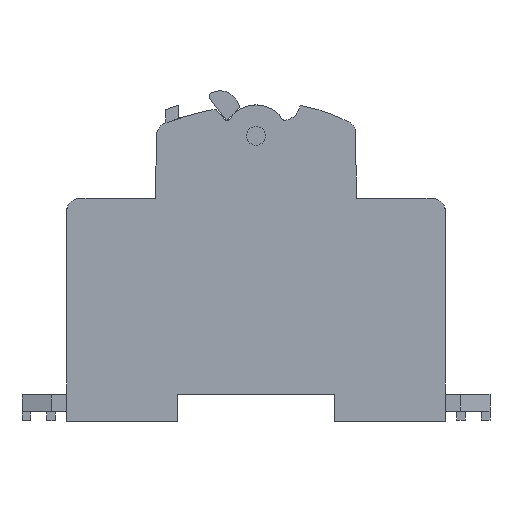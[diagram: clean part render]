
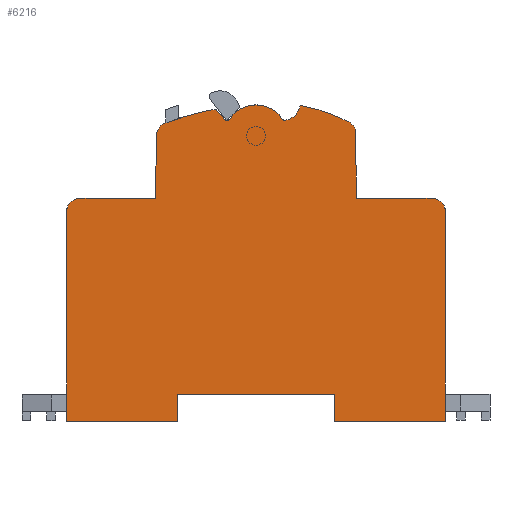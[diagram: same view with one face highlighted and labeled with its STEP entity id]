
A CAD part, left-side view. The second image highlights one B-rep face of the part: STEP entity #6216.
In plain terms, the highlighted planar face has unit normal (-1, 0, 0).
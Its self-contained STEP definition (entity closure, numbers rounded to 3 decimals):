
#13=CARTESIAN_POINT('',(2.,92.,-28.767));
#14=DIRECTION('',(-1.,0.,0.));
#15=DIRECTION('',(0.,0.,1.));
#16=AXIS2_PLACEMENT_3D('',#13,#14,#15);
#18=DIRECTION('',(0.,-1.,0.));
#19=VECTOR('',#18,17.);
#20=CARTESIAN_POINT('',(2.,92.,-25.767));
#21=LINE('',#20,#19);
#22=DIRECTION('',(0.,-0.009,1.));
#23=VECTOR('',#22,14.01);
#24=CARTESIAN_POINT('',(2.,75.,-25.767));
#25=LINE('',#24,#23);
#26=CARTESIAN_POINT('',(2.,71.878,-11.784));
#27=DIRECTION('',(-1.,0.,0.));
#28=DIRECTION('',(0.,0.36,0.933));
#29=AXIS2_PLACEMENT_3D('',#26,#27,#28);
#31=DIRECTION('',(0.,-0.933,0.36));
#32=VECTOR('',#31,0.545);
#33=CARTESIAN_POINT('',(2.,72.958,-8.985));
#34=LINE('',#33,#32);
#35=CARTESIAN_POINT('',(2.,51.893,-62.06));
#36=DIRECTION('',(1.,0.,0.));
#37=DIRECTION('',(0.,0.36,0.933));
#38=AXIS2_PLACEMENT_3D('',#35,#36,#37);
#40=DIRECTION('',(0.,-0.629,-0.777));
#41=VECTOR('',#40,3.42);
#42=CARTESIAN_POINT('',(2.,61.451,-5.766));
#43=LINE('',#42,#41);
#44=DIRECTION('',(0.,-0.689,0.725));
#45=VECTOR('',#44,0.271);
#46=CARTESIAN_POINT('',(2.,59.299,-8.424));
#47=LINE('',#46,#45);
#48=CARTESIAN_POINT('',(2.,58.899,-7.668));
#49=DIRECTION('',(-1.,0.,0.));
#50=DIRECTION('',(0.,0.356,-0.934));
#51=AXIS2_PLACEMENT_3D('',#48,#49,#50);
#53=CARTESIAN_POINT('',(2.,52.5,-11.91));
#54=DIRECTION('',(1.,0.,0.));
#55=DIRECTION('',(0.,0.833,0.553));
#56=AXIS2_PLACEMENT_3D('',#53,#54,#55);
#58=CARTESIAN_POINT('',(2.,46.132,-7.765));
#59=DIRECTION('',(-1.,0.,0.));
#60=DIRECTION('',(0.,0.895,-0.446));
#61=AXIS2_PLACEMENT_3D('',#58,#59,#60);
#63=DIRECTION('',(0.,-0.467,-0.884));
#64=VECTOR('',#63,0.077);
#65=CARTESIAN_POINT('',(2.,45.888,-8.228));
#66=LINE('',#65,#64);
#67=CARTESIAN_POINT('',(2.,46.641,-4.257));
#68=DIRECTION('',(-1.,0.,0.));
#69=DIRECTION('',(0.,-0.192,-0.981));
#70=AXIS2_PLACEMENT_3D('',#67,#68,#69);
#72=DIRECTION('',(0.,-0.318,0.948));
#73=VECTOR('',#72,0.667);
#74=CARTESIAN_POINT('',(2.,42.74,-5.567));
#75=LINE('',#74,#73);
#76=CARTESIAN_POINT('',(2.,49.779,-43.765));
#77=DIRECTION('',(1.,0.,0.));
#78=DIRECTION('',(0.,-0.184,0.983));
#79=AXIS2_PLACEMENT_3D('',#76,#77,#78);
#81=DIRECTION('',(0.,-0.891,-0.454));
#82=VECTOR('',#81,0.083);
#83=CARTESIAN_POINT('',(2.,31.838,-8.573));
#84=LINE('',#83,#82);
#85=CARTESIAN_POINT('',(2.,33.127,-11.283));
#86=DIRECTION('',(-1.,0.,0.));
#87=DIRECTION('',(0.,-1.,0.009));
#88=AXIS2_PLACEMENT_3D('',#85,#86,#87);
#90=DIRECTION('',(0.,-0.009,-1.));
#91=VECTOR('',#90,14.511);
#92=CARTESIAN_POINT('',(2.,30.127,-11.257));
#93=LINE('',#92,#91);
#94=DIRECTION('',(0.,-1.,0.));
#95=VECTOR('',#94,17.);
#96=CARTESIAN_POINT('',(2.,30.,-25.767));
#97=LINE('',#96,#95);
#98=CARTESIAN_POINT('',(2.,13.,-28.767));
#99=DIRECTION('',(-1.,0.,0.));
#100=DIRECTION('',(0.,-1.,0.));
#101=AXIS2_PLACEMENT_3D('',#98,#99,#100);
#103=DIRECTION('',(0.,0.,-1.));
#104=VECTOR('',#103,47.);
#105=CARTESIAN_POINT('',(2.,10.,-28.767));
#106=LINE('',#105,#104);
#107=DIRECTION('',(0.,1.,0.));
#108=VECTOR('',#107,24.8);
#109=CARTESIAN_POINT('',(2.,10.,-75.767));
#110=LINE('',#109,#108);
#111=DIRECTION('',(0.,0.,1.));
#112=VECTOR('',#111,6.);
#113=CARTESIAN_POINT('',(2.,34.8,-75.767));
#114=LINE('',#113,#112);
#115=DIRECTION('',(0.,1.,0.));
#116=VECTOR('',#115,35.4);
#117=CARTESIAN_POINT('',(2.,34.8,-69.767));
#118=LINE('',#117,#116);
#119=DIRECTION('',(0.,0.,-1.));
#120=VECTOR('',#119,6.);
#121=CARTESIAN_POINT('',(2.,70.2,-69.767));
#122=LINE('',#121,#120);
#123=DIRECTION('',(0.,1.,0.));
#124=VECTOR('',#123,24.8);
#125=CARTESIAN_POINT('',(2.,70.2,-75.767));
#126=LINE('',#125,#124);
#127=DIRECTION('',(0.,0.,1.));
#128=VECTOR('',#127,47.);
#129=CARTESIAN_POINT('',(2.,95.,-75.767));
#130=LINE('',#129,#128);
#4667=CARTESIAN_POINT('',(2.,72.449,-8.789));
#4668=CARTESIAN_POINT('',(2.,61.451,-5.766));
#4669=VERTEX_POINT('',#4667);
#4670=VERTEX_POINT('',#4668);
#4671=CARTESIAN_POINT('',(2.,59.299,-8.424));
#4672=VERTEX_POINT('',#4671);
#4673=CARTESIAN_POINT('',(2.,59.112,-8.228));
#4674=VERTEX_POINT('',#4673);
#4675=CARTESIAN_POINT('',(2.,58.399,-7.999));
#4676=VERTEX_POINT('',#4675);
#4677=CARTESIAN_POINT('',(2.,46.601,-7.999));
#4678=VERTEX_POINT('',#4677);
#4679=CARTESIAN_POINT('',(2.,45.888,-8.228));
#4680=VERTEX_POINT('',#4679);
#4681=CARTESIAN_POINT('',(2.,45.852,-8.296));
#4682=VERTEX_POINT('',#4681);
#4683=CARTESIAN_POINT('',(2.,42.74,-5.567));
#4684=VERTEX_POINT('',#4683);
#4685=CARTESIAN_POINT('',(2.,42.528,-4.935));
#4686=VERTEX_POINT('',#4685);
#4687=CARTESIAN_POINT('',(2.,31.838,-8.573));
#4688=VERTEX_POINT('',#4687);
#4689=CARTESIAN_POINT('',(2.,10.,-75.767));
#4690=CARTESIAN_POINT('',(2.,34.8,-75.767));
#4691=VERTEX_POINT('',#4689);
#4692=VERTEX_POINT('',#4690);
#4693=CARTESIAN_POINT('',(2.,34.8,-69.767));
#4694=VERTEX_POINT('',#4693);
#4695=CARTESIAN_POINT('',(2.,70.2,-69.767));
#4696=VERTEX_POINT('',#4695);
#4697=CARTESIAN_POINT('',(2.,70.2,-75.767));
#4698=VERTEX_POINT('',#4697);
#4699=CARTESIAN_POINT('',(2.,95.,-75.767));
#4700=VERTEX_POINT('',#4699);
#4735=CARTESIAN_POINT('',(2.,75.,-25.767));
#4737=VERTEX_POINT('',#4735);
#4739=CARTESIAN_POINT('',(2.,30.,-25.767));
#4741=VERTEX_POINT('',#4739);
#6059=CARTESIAN_POINT('',(2.,92.,-25.767));
#6060=CARTESIAN_POINT('',(2.,95.,-28.767));
#6061=VERTEX_POINT('',#6059);
#6062=VERTEX_POINT('',#6060);
#6099=CARTESIAN_POINT('',(2.,72.958,-8.985));
#6100=CARTESIAN_POINT('',(2.,74.878,-11.758));
#6101=VERTEX_POINT('',#6099);
#6102=VERTEX_POINT('',#6100);
#6107=CARTESIAN_POINT('',(2.,30.127,-11.257));
#6108=CARTESIAN_POINT('',(2.,31.764,-8.61));
#6109=VERTEX_POINT('',#6107);
#6110=VERTEX_POINT('',#6108);
#6115=CARTESIAN_POINT('',(2.,10.,-28.767));
#6116=CARTESIAN_POINT('',(2.,13.,-25.767));
#6117=VERTEX_POINT('',#6115);
#6118=VERTEX_POINT('',#6116);
#6155=CARTESIAN_POINT('',(2.,0.,0.));
#6156=DIRECTION('',(1.,0.,0.));
#6157=DIRECTION('',(0.,1.,0.));
#6158=AXIS2_PLACEMENT_3D('',#6155,#6156,#6157);
#6159=PLANE('',#6158);
#6161=ORIENTED_EDGE('',*,*,#6160,.F.);
#6163=ORIENTED_EDGE('',*,*,#6162,.T.);
#6165=ORIENTED_EDGE('',*,*,#6164,.T.);
#6167=ORIENTED_EDGE('',*,*,#6166,.F.);
#6169=ORIENTED_EDGE('',*,*,#6168,.T.);
#6171=ORIENTED_EDGE('',*,*,#6170,.T.);
#6173=ORIENTED_EDGE('',*,*,#6172,.T.);
#6175=ORIENTED_EDGE('',*,*,#6174,.T.);
#6177=ORIENTED_EDGE('',*,*,#6176,.T.);
#6179=ORIENTED_EDGE('',*,*,#6178,.T.);
#6181=ORIENTED_EDGE('',*,*,#6180,.T.);
#6183=ORIENTED_EDGE('',*,*,#6182,.T.);
#6185=ORIENTED_EDGE('',*,*,#6184,.T.);
#6187=ORIENTED_EDGE('',*,*,#6186,.T.);
#6189=ORIENTED_EDGE('',*,*,#6188,.T.);
#6191=ORIENTED_EDGE('',*,*,#6190,.T.);
#6193=ORIENTED_EDGE('',*,*,#6192,.F.);
#6195=ORIENTED_EDGE('',*,*,#6194,.T.);
#6197=ORIENTED_EDGE('',*,*,#6196,.T.);
#6199=ORIENTED_EDGE('',*,*,#6198,.F.);
#6201=ORIENTED_EDGE('',*,*,#6200,.T.);
#6203=ORIENTED_EDGE('',*,*,#6202,.T.);
#6205=ORIENTED_EDGE('',*,*,#6204,.T.);
#6207=ORIENTED_EDGE('',*,*,#6206,.T.);
#6209=ORIENTED_EDGE('',*,*,#6208,.T.);
#6211=ORIENTED_EDGE('',*,*,#6210,.T.);
#6213=ORIENTED_EDGE('',*,*,#6212,.T.);
#6214=EDGE_LOOP('',(#6161,#6163,#6165,#6167,#6169,#6171,#6173,#6175,#6177,#6179,
#6181,#6183,#6185,#6187,#6189,#6191,#6193,#6195,#6197,#6199,#6201,#6203,#6205,
#6207,#6209,#6211,#6213));
#6215=FACE_OUTER_BOUND('',#6214,.F.);
#6216=ADVANCED_FACE('',(#6215),#6159,.F.);
#17=CIRCLE('',#16,3.);
#30=CIRCLE('',#29,3.);
#39=CIRCLE('',#38,57.1);
#52=CIRCLE('',#51,0.599);
#57=CIRCLE('',#56,7.078);
#62=CIRCLE('',#61,0.524);
#71=CIRCLE('',#70,4.115);
#80=CIRCLE('',#79,39.502);
#89=CIRCLE('',#88,3.);
#102=CIRCLE('',#101,3.);
#6160=EDGE_CURVE('',#6061,#6062,#17,.T.);
#6162=EDGE_CURVE('',#6061,#4737,#21,.T.);
#6164=EDGE_CURVE('',#4737,#6102,#25,.T.);
#6166=EDGE_CURVE('',#6101,#6102,#30,.T.);
#6168=EDGE_CURVE('',#6101,#4669,#34,.T.);
#6170=EDGE_CURVE('',#4669,#4670,#39,.T.);
#6172=EDGE_CURVE('',#4670,#4672,#43,.T.);
#6174=EDGE_CURVE('',#4672,#4674,#47,.T.);
#6176=EDGE_CURVE('',#4674,#4676,#52,.T.);
#6178=EDGE_CURVE('',#4676,#4678,#57,.T.);
#6180=EDGE_CURVE('',#4678,#4680,#62,.T.);
#6182=EDGE_CURVE('',#4680,#4682,#66,.T.);
#6184=EDGE_CURVE('',#4682,#4684,#71,.T.);
#6186=EDGE_CURVE('',#4684,#4686,#75,.T.);
#6188=EDGE_CURVE('',#4686,#4688,#80,.T.);
#6190=EDGE_CURVE('',#4688,#6110,#84,.T.);
#6192=EDGE_CURVE('',#6109,#6110,#89,.T.);
#6194=EDGE_CURVE('',#6109,#4741,#93,.T.);
#6196=EDGE_CURVE('',#4741,#6118,#97,.T.);
#6198=EDGE_CURVE('',#6117,#6118,#102,.T.);
#6200=EDGE_CURVE('',#6117,#4691,#106,.T.);
#6202=EDGE_CURVE('',#4691,#4692,#110,.T.);
#6204=EDGE_CURVE('',#4692,#4694,#114,.T.);
#6206=EDGE_CURVE('',#4694,#4696,#118,.T.);
#6208=EDGE_CURVE('',#4696,#4698,#122,.T.);
#6210=EDGE_CURVE('',#4698,#4700,#126,.T.);
#6212=EDGE_CURVE('',#4700,#6062,#130,.T.);
